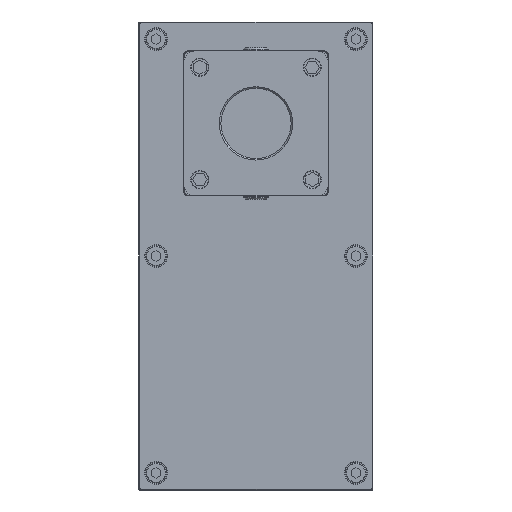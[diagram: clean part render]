
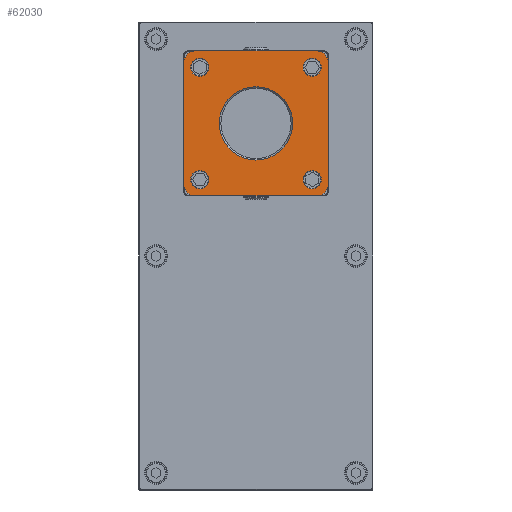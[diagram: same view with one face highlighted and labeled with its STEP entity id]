
A CAD part, front view. The second image highlights one B-rep face of the part: STEP entity #62030.
In plain terms, the highlighted planar face has unit normal (0, -1, 0).
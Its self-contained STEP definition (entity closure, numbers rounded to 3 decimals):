
#61085=CARTESIAN_POINT('',(38.5,-7.,38.5));
#61086=DIRECTION('',(0.,-1.,0.));
#61087=DIRECTION('',(1.,0.,0.));
#61088=AXIS2_PLACEMENT_3D('',#61085,#61086,#61087);
#61090=DIRECTION('',(0.,0.,-1.));
#61091=VECTOR('',#61090,77.);
#61092=CARTESIAN_POINT('',(46.5,-7.,38.5));
#61093=LINE('',#61092,#61091);
#61094=CARTESIAN_POINT('',(38.5,-7.,-38.5));
#61095=DIRECTION('',(0.,-1.,0.));
#61096=DIRECTION('',(0.,0.,-1.));
#61097=AXIS2_PLACEMENT_3D('',#61094,#61095,#61096);
#61099=DIRECTION('',(-1.,0.,0.));
#61100=VECTOR('',#61099,77.);
#61101=CARTESIAN_POINT('',(38.5,-7.,-46.5));
#61102=LINE('',#61101,#61100);
#61103=CARTESIAN_POINT('',(-38.5,-7.,-38.5));
#61104=DIRECTION('',(0.,-1.,0.));
#61105=DIRECTION('',(-1.,0.,0.));
#61106=AXIS2_PLACEMENT_3D('',#61103,#61104,#61105);
#61108=DIRECTION('',(0.,0.,1.));
#61109=VECTOR('',#61108,77.);
#61110=CARTESIAN_POINT('',(-46.5,-7.,-38.5));
#61111=LINE('',#61110,#61109);
#61112=CARTESIAN_POINT('',(-38.5,-7.,38.5));
#61113=DIRECTION('',(0.,-1.,0.));
#61114=DIRECTION('',(0.,0.,1.));
#61115=AXIS2_PLACEMENT_3D('',#61112,#61113,#61114);
#61117=DIRECTION('',(1.,0.,0.));
#61118=VECTOR('',#61117,77.);
#61119=CARTESIAN_POINT('',(-38.5,-7.,46.5));
#61120=LINE('',#61119,#61118);
#61121=CARTESIAN_POINT('',(36.,-7.,-36.));
#61122=DIRECTION('',(0.,1.,0.));
#61123=DIRECTION('',(1.,0.,0.));
#61124=AXIS2_PLACEMENT_3D('',#61121,#61122,#61123);
#61126=CARTESIAN_POINT('',(36.,-7.,-36.));
#61127=DIRECTION('',(0.,1.,0.));
#61128=DIRECTION('',(-1.,0.,0.));
#61129=AXIS2_PLACEMENT_3D('',#61126,#61127,#61128);
#61131=CARTESIAN_POINT('',(36.,-7.,36.));
#61132=DIRECTION('',(0.,1.,0.));
#61133=DIRECTION('',(-1.,0.,0.));
#61134=AXIS2_PLACEMENT_3D('',#61131,#61132,#61133);
#61136=CARTESIAN_POINT('',(36.,-7.,36.));
#61137=DIRECTION('',(0.,1.,0.));
#61138=DIRECTION('',(1.,0.,0.));
#61139=AXIS2_PLACEMENT_3D('',#61136,#61137,#61138);
#61141=CARTESIAN_POINT('',(-36.,-7.,36.));
#61142=DIRECTION('',(0.,1.,0.));
#61143=DIRECTION('',(-1.,0.,0.));
#61144=AXIS2_PLACEMENT_3D('',#61141,#61142,#61143);
#61146=CARTESIAN_POINT('',(-36.,-7.,36.));
#61147=DIRECTION('',(0.,1.,0.));
#61148=DIRECTION('',(1.,0.,0.));
#61149=AXIS2_PLACEMENT_3D('',#61146,#61147,#61148);
#61151=CARTESIAN_POINT('',(-36.,-7.,-36.));
#61152=DIRECTION('',(0.,1.,0.));
#61153=DIRECTION('',(1.,0.,0.));
#61154=AXIS2_PLACEMENT_3D('',#61151,#61152,#61153);
#61156=CARTESIAN_POINT('',(-36.,-7.,-36.));
#61157=DIRECTION('',(0.,1.,0.));
#61158=DIRECTION('',(-1.,0.,0.));
#61159=AXIS2_PLACEMENT_3D('',#61156,#61157,#61158);
#61161=CARTESIAN_POINT('',(0.,-7.,0.));
#61162=DIRECTION('',(0.,1.,0.));
#61163=DIRECTION('',(0.,0.,1.));
#61164=AXIS2_PLACEMENT_3D('',#61161,#61162,#61163);
#61166=CARTESIAN_POINT('',(0.,-7.,0.));
#61167=DIRECTION('',(0.,1.,0.));
#61168=DIRECTION('',(0.,0.,-1.));
#61169=AXIS2_PLACEMENT_3D('',#61166,#61167,#61168);
#61821=CARTESIAN_POINT('',(46.5,-7.,38.5));
#61822=CARTESIAN_POINT('',(38.5,-7.,46.5));
#61823=VERTEX_POINT('',#61821);
#61824=VERTEX_POINT('',#61822);
#61829=CARTESIAN_POINT('',(-38.5,-7.,46.5));
#61830=CARTESIAN_POINT('',(-46.5,-7.,38.5));
#61831=VERTEX_POINT('',#61829);
#61832=VERTEX_POINT('',#61830);
#61837=CARTESIAN_POINT('',(38.5,-7.,-46.5));
#61838=CARTESIAN_POINT('',(46.5,-7.,-38.5));
#61839=VERTEX_POINT('',#61837);
#61840=VERTEX_POINT('',#61838);
#61845=CARTESIAN_POINT('',(-46.5,-7.,-38.5));
#61846=CARTESIAN_POINT('',(-38.5,-7.,-46.5));
#61847=VERTEX_POINT('',#61845);
#61848=VERTEX_POINT('',#61846);
#61869=CARTESIAN_POINT('',(41.8,-7.,-36.));
#61870=CARTESIAN_POINT('',(30.2,-7.,-36.));
#61871=VERTEX_POINT('',#61869);
#61872=VERTEX_POINT('',#61870);
#61877=CARTESIAN_POINT('',(30.2,-7.,36.));
#61878=CARTESIAN_POINT('',(41.8,-7.,36.));
#61879=VERTEX_POINT('',#61877);
#61880=VERTEX_POINT('',#61878);
#61885=CARTESIAN_POINT('',(-41.8,-7.,36.));
#61886=CARTESIAN_POINT('',(-30.2,-7.,36.));
#61887=VERTEX_POINT('',#61885);
#61888=VERTEX_POINT('',#61886);
#61893=CARTESIAN_POINT('',(-30.2,-7.,-36.));
#61894=CARTESIAN_POINT('',(-41.8,-7.,-36.));
#61895=VERTEX_POINT('',#61893);
#61896=VERTEX_POINT('',#61894);
#61969=CARTESIAN_POINT('',(0.,-7.,23.5));
#61970=CARTESIAN_POINT('',(0.,-7.,-23.5));
#61971=VERTEX_POINT('',#61969);
#61972=VERTEX_POINT('',#61970);
#61977=CARTESIAN_POINT('',(0.,-7.,0.));
#61978=DIRECTION('',(0.,1.,0.));
#61979=DIRECTION('',(1.,0.,0.));
#61980=AXIS2_PLACEMENT_3D('',#61977,#61978,#61979);
#61981=PLANE('',#61980);
#61983=ORIENTED_EDGE('',*,*,#61982,.F.);
#61985=ORIENTED_EDGE('',*,*,#61984,.T.);
#61987=ORIENTED_EDGE('',*,*,#61986,.F.);
#61989=ORIENTED_EDGE('',*,*,#61988,.T.);
#61991=ORIENTED_EDGE('',*,*,#61990,.F.);
#61993=ORIENTED_EDGE('',*,*,#61992,.T.);
#61995=ORIENTED_EDGE('',*,*,#61994,.F.);
#61997=ORIENTED_EDGE('',*,*,#61996,.T.);
#61998=EDGE_LOOP('',(#61983,#61985,#61987,#61989,#61991,#61993,#61995,#61997));
#61999=FACE_OUTER_BOUND('',#61998,.F.);
#62001=ORIENTED_EDGE('',*,*,#62000,.F.);
#62003=ORIENTED_EDGE('',*,*,#62002,.F.);
#62004=EDGE_LOOP('',(#62001,#62003));
#62005=FACE_BOUND('',#62004,.F.);
#62007=ORIENTED_EDGE('',*,*,#62006,.F.);
#62009=ORIENTED_EDGE('',*,*,#62008,.F.);
#62010=EDGE_LOOP('',(#62007,#62009));
#62011=FACE_BOUND('',#62010,.F.);
#62013=ORIENTED_EDGE('',*,*,#62012,.F.);
#62015=ORIENTED_EDGE('',*,*,#62014,.F.);
#62016=EDGE_LOOP('',(#62013,#62015));
#62017=FACE_BOUND('',#62016,.F.);
#62019=ORIENTED_EDGE('',*,*,#62018,.F.);
#62021=ORIENTED_EDGE('',*,*,#62020,.F.);
#62022=EDGE_LOOP('',(#62019,#62021));
#62023=FACE_BOUND('',#62022,.F.);
#62025=ORIENTED_EDGE('',*,*,#62024,.F.);
#62027=ORIENTED_EDGE('',*,*,#62026,.F.);
#62028=EDGE_LOOP('',(#62025,#62027));
#62029=FACE_BOUND('',#62028,.F.);
#62030=ADVANCED_FACE('',(#61999,#62005,#62011,#62017,#62023,#62029),#61981,.F.);
#61089=CIRCLE('',#61088,8.);
#61098=CIRCLE('',#61097,8.);
#61107=CIRCLE('',#61106,8.);
#61116=CIRCLE('',#61115,8.);
#61125=CIRCLE('',#61124,5.8);
#61130=CIRCLE('',#61129,5.8);
#61135=CIRCLE('',#61134,5.8);
#61140=CIRCLE('',#61139,5.8);
#61145=CIRCLE('',#61144,5.8);
#61150=CIRCLE('',#61149,5.8);
#61155=CIRCLE('',#61154,5.8);
#61160=CIRCLE('',#61159,5.8);
#61165=CIRCLE('',#61164,23.5);
#61170=CIRCLE('',#61169,23.5);
#61982=EDGE_CURVE('',#61823,#61824,#61089,.T.);
#61984=EDGE_CURVE('',#61823,#61840,#61093,.T.);
#61986=EDGE_CURVE('',#61839,#61840,#61098,.T.);
#61988=EDGE_CURVE('',#61839,#61848,#61102,.T.);
#61990=EDGE_CURVE('',#61847,#61848,#61107,.T.);
#61992=EDGE_CURVE('',#61847,#61832,#61111,.T.);
#61994=EDGE_CURVE('',#61831,#61832,#61116,.T.);
#61996=EDGE_CURVE('',#61831,#61824,#61120,.T.);
#62000=EDGE_CURVE('',#61871,#61872,#61125,.T.);
#62002=EDGE_CURVE('',#61872,#61871,#61130,.T.);
#62006=EDGE_CURVE('',#61879,#61880,#61135,.T.);
#62008=EDGE_CURVE('',#61880,#61879,#61140,.T.);
#62012=EDGE_CURVE('',#61887,#61888,#61145,.T.);
#62014=EDGE_CURVE('',#61888,#61887,#61150,.T.);
#62018=EDGE_CURVE('',#61895,#61896,#61155,.T.);
#62020=EDGE_CURVE('',#61896,#61895,#61160,.T.);
#62024=EDGE_CURVE('',#61971,#61972,#61165,.T.);
#62026=EDGE_CURVE('',#61972,#61971,#61170,.T.);
